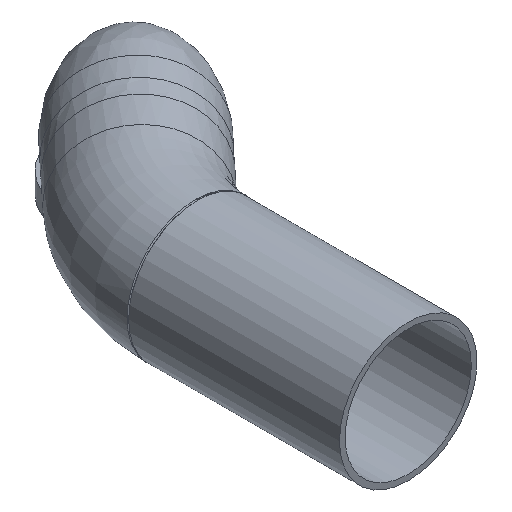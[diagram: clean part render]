
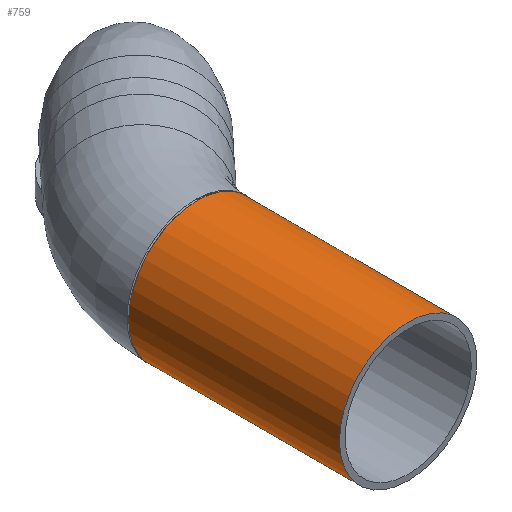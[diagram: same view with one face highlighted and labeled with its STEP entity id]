
A CAD part, isometric view. The second image highlights one B-rep face of the part: STEP entity #759.
In plain terms, the highlighted cylindrical face has radius 55.2 mm (diameter 110.4 mm), a full revolution.
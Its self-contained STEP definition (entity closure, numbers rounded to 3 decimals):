
#82=FACE_BOUND($,#174,.T.);
#121=FACE_OUTER_BOUND($,#173,.T.);
#173=EDGE_LOOP($,(#506));
#174=EDGE_LOOP($,(#507));
#248=CIRCLE($,#821,55.2);
#253=CIRCLE($,#830,55.2);
#332=VERTEX_POINT($,#1122);
#337=VERTEX_POINT($,#1136);
#402=EDGE_CURVE($,#332,#332,#248,.T.);
#407=EDGE_CURVE($,#337,#337,#253,.T.);
#506=ORIENTED_EDGE($,*,*,#402,.T.);
#507=ORIENTED_EDGE($,*,*,#407,.F.);
#682=CYLINDRICAL_SURFACE($,#829,55.2);
#759=ADVANCED_FACE($,(#121,#82),#682,.T.);
#821=AXIS2_PLACEMENT_3D($,#1123,#912,#913);
#829=AXIS2_PLACEMENT_3D($,#1135,#928,#929);
#830=AXIS2_PLACEMENT_3D($,#1137,#930,#931);
#912=DIRECTION('center_axis',(0.,-1.,0.));
#913=DIRECTION('ref_axis',(1.,0.,0.));
#928=DIRECTION('center_axis',(0.,1.,0.));
#929=DIRECTION('ref_axis',(1.,0.,0.));
#930=DIRECTION('center_axis',(0.,-1.,0.));
#931=DIRECTION('ref_axis',(1.,0.,0.));
#1122=CARTESIAN_POINT('',(-55.2,169.363,0.));
#1123=CARTESIAN_POINT('Origin',(0.,169.363,0.));
#1135=CARTESIAN_POINT('Origin',(0.,0.,0.));
#1136=CARTESIAN_POINT('',(-55.2,0.,0.));
#1137=CARTESIAN_POINT('Origin',(0.,0.,0.));
